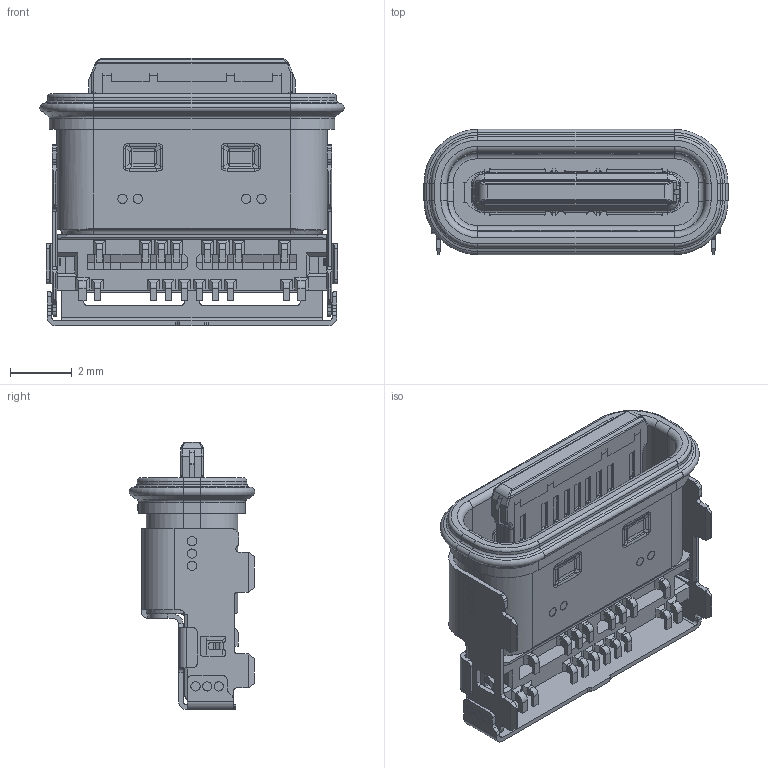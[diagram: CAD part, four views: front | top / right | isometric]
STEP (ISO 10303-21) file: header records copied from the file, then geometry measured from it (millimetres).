
FILE_DESCRIPTION (( 'STEP AP203' ), '1' );
FILE_NAME ('GT-USB-9045G.STEP', '2025-04-08T05:46:05', ( '' ), ( '' ), 'SwSTEP 2.0', 'SolidWorks 2023', '' );
FILE_SCHEMA (( 'CONFIG_CONTROL_DESIGN' ));
Products named in the file (1): GT-USB-9045G
Bounding box: 9.85 x 4.06 x 8.65 mm (x, y, z)
Volume: 108.5 mm3; surface area: 999.7 mm2
Topology: 23 solids, 50 shells, 5910 faces, 16118 edges, 10223 vertices
Faces by surface type: plane 4169, cylinder 1226, cone 266, bspline 141, torus 72, sphere 36
Entity records: 189884 total; most frequent: CARTESIAN_POINT 39956, ORIENTED_EDGE 32228, DIRECTION 29811, EDGE_CURVE 16114, VECTOR 12693, LINE 12693, VERTEX_POINT 10223, AXIS2_PLACEMENT_3D 8559
